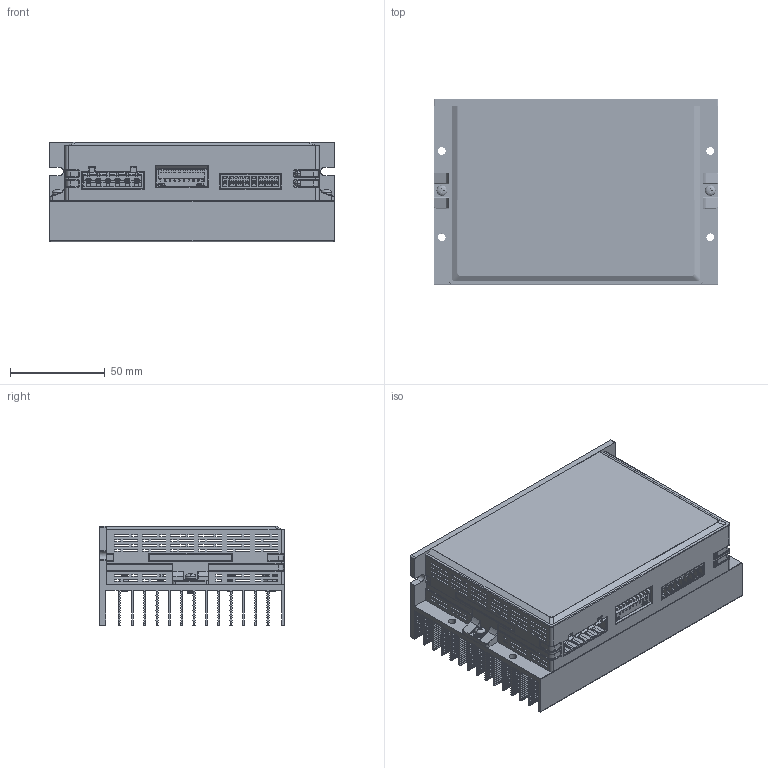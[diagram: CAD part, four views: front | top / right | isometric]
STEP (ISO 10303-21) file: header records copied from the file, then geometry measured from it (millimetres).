
FILE_DESCRIPTION(('CATIA V5 STEP Exchange'),'2;1');
FILE_NAME('C:\Users\xinje\Desktop\DP3L1-805A-官网图.stp','2023-07-25T03:09:47+00:00',('none'),('none'),'CATIA Version 5 Release 20 GA (IN-10)','CATIA V5 STEP AP203','none');
FILE_SCHEMA(('CONFIG_CONTROL_DESIGN'));
Products named in the file (2): DP3L1-806A-221017_stp; DP3L1-806A-PCBban-221017
Assembly tree (24 placements, depth 3):
  DP3L1-806A-221017_stp
    #58  x4
    #6700  x7
    #11834  x4
    #12501
    #59109
    DP3L1-806A-PCBban-221017
      #109942
      #119473
      #133006
      #162181
      #162204
      #163449
Bounding box: 150 x 97.5 x 52.6 mm (x, y, z)
Volume: 152725.7 mm3; surface area: 185610.9 mm2
Topology: 47 solids, 47 shells, 5645 faces, 16057 edges, 10646 vertices
Faces by surface type: plane 3256, cylinder 1754, extrusion 294, bspline 177, cone 58, torus 56, sphere 28, revolution 22
Entity records: 163407 total; most frequent: CARTESIAN_POINT 47284, ORIENTED_EDGE 26408, DIRECTION 19387, EDGE_CURVE 13204, VECTOR 10120, LINE 9826, VERTEX_POINT 8741, AXIS2_PLACEMENT_3D 5117
